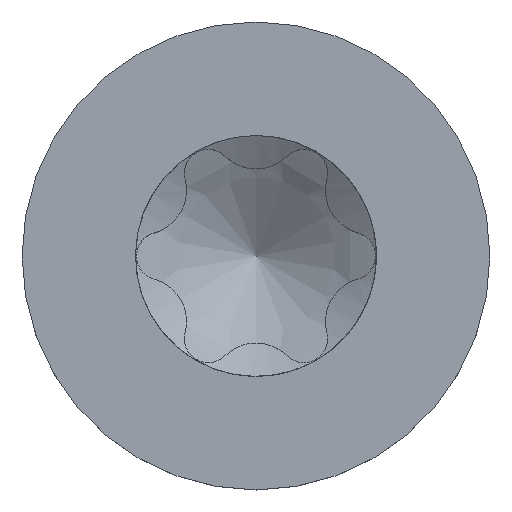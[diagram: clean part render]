
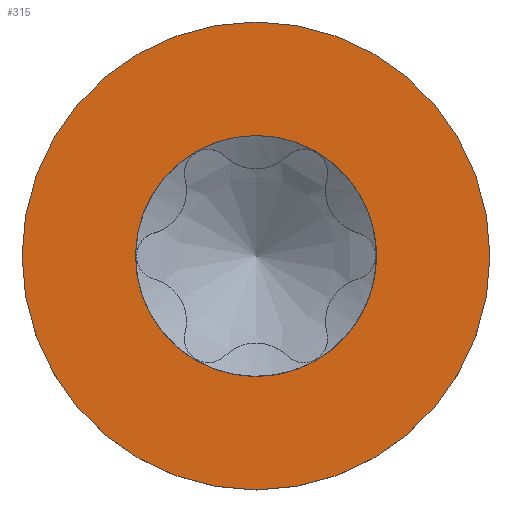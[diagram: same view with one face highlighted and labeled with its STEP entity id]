
A CAD part, top view. The second image highlights one B-rep face of the part: STEP entity #315.
In plain terms, the highlighted planar face has unit normal (0, 0, 1).
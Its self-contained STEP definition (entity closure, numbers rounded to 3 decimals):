
#270=PLANE('',#1564);
#297=FACE_BOUND('',#509,.T.);
#298=FACE_BOUND('',#510,.T.);
#315=ADVANCED_FACE('',(#297,#298),#270,.T.);
#509=EDGE_LOOP('',(#686));
#510=EDGE_LOOP('',(#687));
#610=CIRCLE('',#1561,2.35);
#611=CIRCLE('',#1563,1.21);
#686=ORIENTED_EDGE('',*,*,#1260,.T.);
#687=ORIENTED_EDGE('',*,*,#1259,.F.);
#1119=VERTEX_POINT('',#4541);
#1120=VERTEX_POINT('',#4544);
#1259=EDGE_CURVE('',#1119,#1119,#610,.T.);
#1260=EDGE_CURVE('',#1120,#1120,#611,.T.);
#1561=AXIS2_PLACEMENT_3D('',#4540,#1614,#1615);
#1563=AXIS2_PLACEMENT_3D('',#4543,#1618,#1619);
#1564=AXIS2_PLACEMENT_3D('',#4545,#1620,#1621);
#1614=DIRECTION('',(0.,0.,-1.));
#1615=DIRECTION('',(0.,1.,0.));
#1618=DIRECTION('',(0.,0.,-1.));
#1619=DIRECTION('',(0.,-1.,0.));
#1620=DIRECTION('',(0.,0.,1.));
#1621=DIRECTION('',(0.,-1.,0.));
#4540=CARTESIAN_POINT('',(0.,0.,2.));
#4541=CARTESIAN_POINT('',(0.,2.35,2.));
#4543=CARTESIAN_POINT('',(0.,0.,2.));
#4544=CARTESIAN_POINT('',(0.,-1.21,2.));
#4545=CARTESIAN_POINT('',(0.,2.35,2.));
